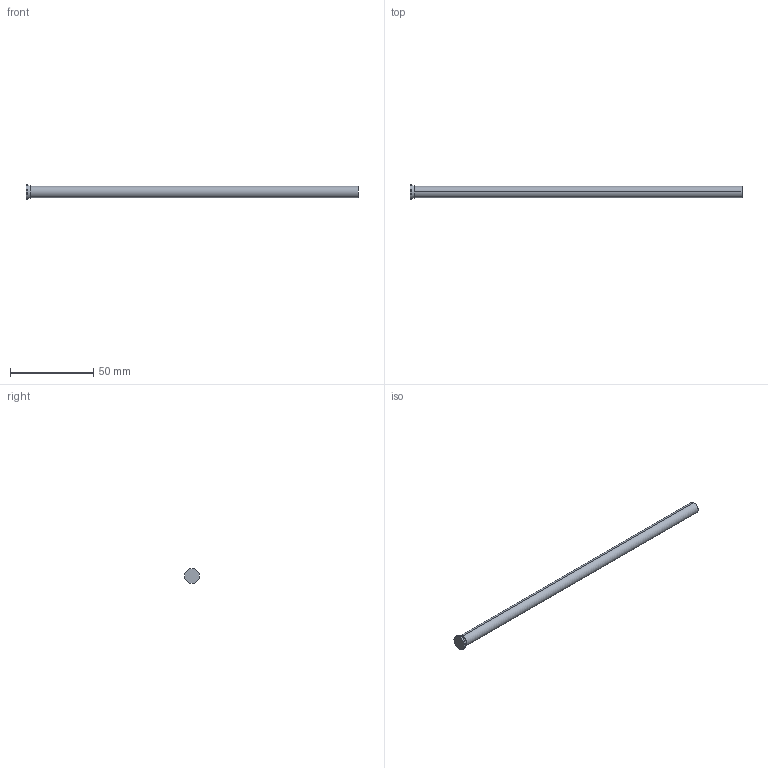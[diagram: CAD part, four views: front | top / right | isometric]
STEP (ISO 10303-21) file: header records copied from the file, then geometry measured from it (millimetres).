
FILE_DESCRIPTION (( 'STEP AP214' ), '1' );
FILE_NAME ('D-7x200.STEP', '2020-06-08T17:21:51', ( 'August' ), ( '' ), 'SwSTEP 2.0', 'SolidWorks 2018', '' );
FILE_SCHEMA (( 'AUTOMOTIVE_DESIGN' ));
Length unit declared in the file: millimetre
Products named in the file (1): D-7x200
Bounding box: 200 x 9 x 9 mm (x, y, z)
Volume: 7743 mm3; surface area: 4518.5 mm2
Topology: 1 solids, 1 shells, 10 faces, 18 edges, 10 vertices
Faces by surface type: cylinder 4, torus 2, cone 2, plane 2
Entity records: 280 total; most frequent: DIRECTION 52, CARTESIAN_POINT 39, ORIENTED_EDGE 36, AXIS2_PLACEMENT_3D 23, EDGE_CURVE 18, CIRCLE 12, ADVANCED_FACE 10, FACE_OUTER_BOUND 10
